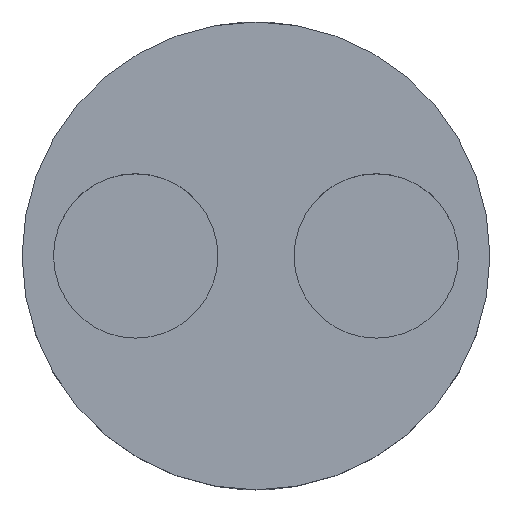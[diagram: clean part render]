
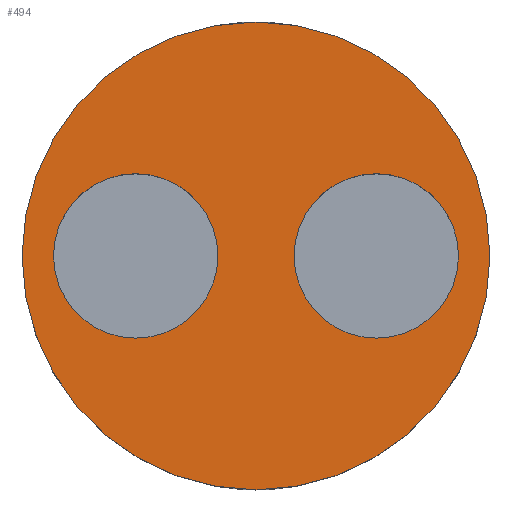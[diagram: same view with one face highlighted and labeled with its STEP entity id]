
A CAD part, top view. The second image highlights one B-rep face of the part: STEP entity #494.
In plain terms, the highlighted planar face has unit normal (0, 0, 1).
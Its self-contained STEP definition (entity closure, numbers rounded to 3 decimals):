
#24 = VERTEX_POINT('',#25);
#25 = CARTESIAN_POINT('',(35.,0.,16.));
#32 = CYLINDRICAL_SURFACE('',#33,35.);
#33 = AXIS2_PLACEMENT_3D('',#34,#35,#36);
#34 = CARTESIAN_POINT('',(0.,0.,0.));
#35 = DIRECTION('',(0.,0.,1.));
#36 = DIRECTION('',(1.,0.,-0.));
#51 = EDGE_CURVE('',#24,#24,#52,.T.);
#52 = SURFACE_CURVE('',#53,(#58,#65),.PCURVE_S1.);
#53 = CIRCLE('',#54,35.);
#54 = AXIS2_PLACEMENT_3D('',#55,#56,#57);
#55 = CARTESIAN_POINT('',(0.,0.,16.));
#56 = DIRECTION('',(0.,0.,1.));
#57 = DIRECTION('',(1.,0.,-0.));
#58 = PCURVE('',#32,#59);
#59 = DEFINITIONAL_REPRESENTATION('',(#60),#64);
#60 = LINE('',#61,#62);
#61 = CARTESIAN_POINT('',(0.,16.));
#62 = VECTOR('',#63,1.);
#63 = DIRECTION('',(1.,0.));
#64 = ( GEOMETRIC_REPRESENTATION_CONTEXT(2) 
PARAMETRIC_REPRESENTATION_CONTEXT() REPRESENTATION_CONTEXT('2D SPACE',''
  ) );
#65 = PCURVE('',#66,#71);
#66 = PLANE('',#67);
#67 = AXIS2_PLACEMENT_3D('',#68,#69,#70);
#68 = CARTESIAN_POINT('',(0.,0.,16.));
#69 = DIRECTION('',(0.,0.,1.));
#70 = DIRECTION('',(1.,0.,-0.));
#71 = DEFINITIONAL_REPRESENTATION('',(#72),#76);
#72 = CIRCLE('',#73,35.);
#73 = AXIS2_PLACEMENT_2D('',#74,#75);
#74 = CARTESIAN_POINT('',(0.,0.));
#75 = DIRECTION('',(1.,0.));
#76 = ( GEOMETRIC_REPRESENTATION_CONTEXT(2) 
PARAMETRIC_REPRESENTATION_CONTEXT() REPRESENTATION_CONTEXT('2D SPACE',''
  ) );
#494 = ADVANCED_FACE('',(#495,#498,#529),#66,.T.);
#495 = FACE_BOUND('',#496,.T.);
#496 = EDGE_LOOP('',(#497));
#497 = ORIENTED_EDGE('',*,*,#51,.T.);
#498 = FACE_BOUND('',#499,.T.);
#499 = EDGE_LOOP('',(#500));
#500 = ORIENTED_EDGE('',*,*,#501,.F.);
#501 = EDGE_CURVE('',#502,#502,#504,.T.);
#502 = VERTEX_POINT('',#503);
#503 = CARTESIAN_POINT('',(-5.7,0.,16.));
#504 = SURFACE_CURVE('',#505,(#510,#517),.PCURVE_S1.);
#505 = CIRCLE('',#506,12.3);
#506 = AXIS2_PLACEMENT_3D('',#507,#508,#509);
#507 = CARTESIAN_POINT('',(-18.,0.,16.));
#508 = DIRECTION('',(0.,0.,1.));
#509 = DIRECTION('',(1.,0.,-0.));
#510 = PCURVE('',#66,#511);
#511 = DEFINITIONAL_REPRESENTATION('',(#512),#516);
#512 = CIRCLE('',#513,12.3);
#513 = AXIS2_PLACEMENT_2D('',#514,#515);
#514 = CARTESIAN_POINT('',(-18.,0.));
#515 = DIRECTION('',(1.,0.));
#516 = ( GEOMETRIC_REPRESENTATION_CONTEXT(2) 
PARAMETRIC_REPRESENTATION_CONTEXT() REPRESENTATION_CONTEXT('2D SPACE',''
  ) );
#517 = PCURVE('',#518,#523);
#518 = CYLINDRICAL_SURFACE('',#519,12.3);
#519 = AXIS2_PLACEMENT_3D('',#520,#521,#522);
#520 = CARTESIAN_POINT('',(-18.,0.,4.));
#521 = DIRECTION('',(0.,0.,1.));
#522 = DIRECTION('',(1.,0.,-0.));
#523 = DEFINITIONAL_REPRESENTATION('',(#524),#528);
#524 = LINE('',#525,#526);
#525 = CARTESIAN_POINT('',(0.,12.));
#526 = VECTOR('',#527,1.);
#527 = DIRECTION('',(1.,0.));
#528 = ( GEOMETRIC_REPRESENTATION_CONTEXT(2) 
PARAMETRIC_REPRESENTATION_CONTEXT() REPRESENTATION_CONTEXT('2D SPACE',''
  ) );
#529 = FACE_BOUND('',#530,.T.);
#530 = EDGE_LOOP('',(#531));
#531 = ORIENTED_EDGE('',*,*,#532,.F.);
#532 = EDGE_CURVE('',#533,#533,#535,.T.);
#533 = VERTEX_POINT('',#534);
#534 = CARTESIAN_POINT('',(30.3,0.,16.));
#535 = SURFACE_CURVE('',#536,(#541,#548),.PCURVE_S1.);
#536 = CIRCLE('',#537,12.3);
#537 = AXIS2_PLACEMENT_3D('',#538,#539,#540);
#538 = CARTESIAN_POINT('',(18.,0.,16.));
#539 = DIRECTION('',(0.,0.,1.));
#540 = DIRECTION('',(1.,0.,-0.));
#541 = PCURVE('',#66,#542);
#542 = DEFINITIONAL_REPRESENTATION('',(#543),#547);
#543 = CIRCLE('',#544,12.3);
#544 = AXIS2_PLACEMENT_2D('',#545,#546);
#545 = CARTESIAN_POINT('',(18.,0.));
#546 = DIRECTION('',(1.,0.));
#547 = ( GEOMETRIC_REPRESENTATION_CONTEXT(2) 
PARAMETRIC_REPRESENTATION_CONTEXT() REPRESENTATION_CONTEXT('2D SPACE',''
  ) );
#548 = PCURVE('',#549,#554);
#549 = CYLINDRICAL_SURFACE('',#550,12.3);
#550 = AXIS2_PLACEMENT_3D('',#551,#552,#553);
#551 = CARTESIAN_POINT('',(18.,0.,4.));
#552 = DIRECTION('',(0.,0.,1.));
#553 = DIRECTION('',(1.,0.,-0.));
#554 = DEFINITIONAL_REPRESENTATION('',(#555),#559);
#555 = LINE('',#556,#557);
#556 = CARTESIAN_POINT('',(0.,12.));
#557 = VECTOR('',#558,1.);
#558 = DIRECTION('',(1.,0.));
#559 = ( GEOMETRIC_REPRESENTATION_CONTEXT(2) 
PARAMETRIC_REPRESENTATION_CONTEXT() REPRESENTATION_CONTEXT('2D SPACE',''
  ) );
